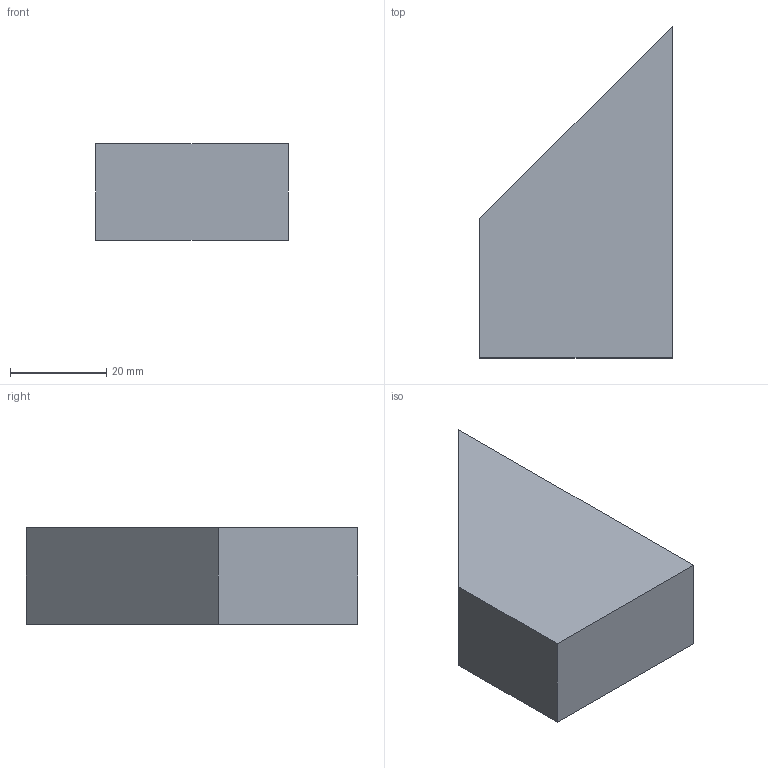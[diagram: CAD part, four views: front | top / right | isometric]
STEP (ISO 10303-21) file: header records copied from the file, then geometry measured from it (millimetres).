
FILE_DESCRIPTION(/* description */ (''),/* implementation_level */ '2;1');
FILE_NAME(/* name */ 'OP5A58~1',/* time_stamp */ '2014-02-14T19:49:06+01:00',/* author */ (''),/* organization */ (''),/* preprocessor_version */ 'ST-DEVELOPER v14',/* originating_system */ '',/* authorisation */ '');
FILE_SCHEMA (('AUTOMOTIVE_DESIGN'));
Length unit declared in the file: millimetre
Products named in the file (1): Document
Bounding box: 40 x 69 x 20 mm (x, y, z)
Volume: 39200 mm3; surface area: 7811.4 mm2
Topology: 1 solids, 1 shells, 6 faces, 12 edges, 8 vertices
Faces by surface type: plane 6
Entity records: 306 total; most frequent: CARTESIAN_POINT 96, B_SPLINE_CURVE_WITH_KNOTS 36, ORIENTED_EDGE 24, PCURVE 24, DEFINITIONAL_REPRESENTATION 24, SURFACE_CURVE 12, EDGE_CURVE 12, DIRECTION 10
